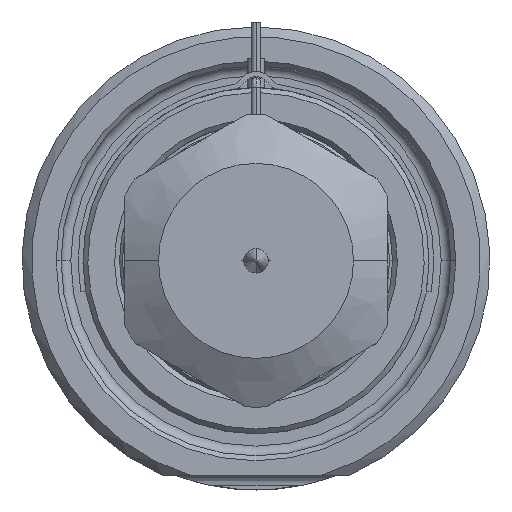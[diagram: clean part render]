
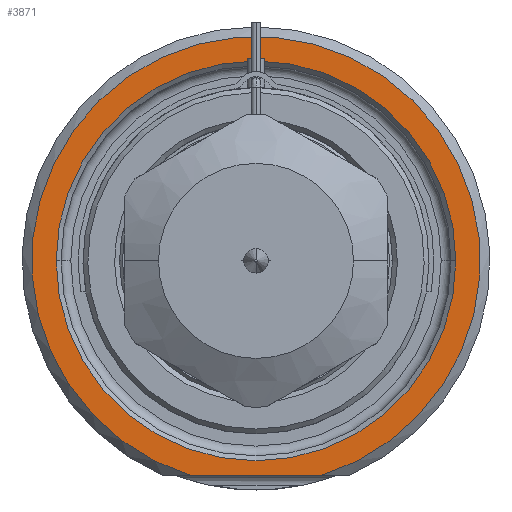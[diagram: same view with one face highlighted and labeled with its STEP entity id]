
A CAD part, front view. The second image highlights one B-rep face of the part: STEP entity #3871.
In plain terms, the highlighted planar face has unit normal (0, -1, 0).
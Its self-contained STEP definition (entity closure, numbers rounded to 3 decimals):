
#1=DIRECTION('',(1.,0.,0.));
#2=VECTOR('',#1,13.416);
#3=CARTESIAN_POINT('',(-6.708,0.,-22.));
#4=LINE('',#3,#2);
#5=CARTESIAN_POINT('',(0.,0.,0.));
#6=DIRECTION('',(0.,1.,0.));
#7=DIRECTION('',(-1.,0.,0.));
#8=AXIS2_PLACEMENT_3D('',#5,#6,#7);
#10=CARTESIAN_POINT('',(0.,0.,0.));
#11=DIRECTION('',(0.,1.,0.));
#12=DIRECTION('',(1.,0.,0.));
#13=AXIS2_PLACEMENT_3D('',#10,#11,#12);
#121=CARTESIAN_POINT('',(0.,0.,0.));
#122=DIRECTION('',(0.,-1.,0.));
#123=DIRECTION('',(0.292,0.,-0.957));
#124=AXIS2_PLACEMENT_3D('',#121,#122,#123);
#3244=CARTESIAN_POINT('',(-20.5,0.,0.));
#3245=CARTESIAN_POINT('',(20.5,0.,0.));
#3246=VERTEX_POINT('',#3244);
#3247=VERTEX_POINT('',#3245);
#3284=CARTESIAN_POINT('',(-6.708,0.,-22.));
#3285=CARTESIAN_POINT('',(6.708,0.,-22.));
#3286=VERTEX_POINT('',#3284);
#3287=VERTEX_POINT('',#3285);
#3854=CARTESIAN_POINT('',(0.,0.,0.));
#3855=DIRECTION('',(0.,-1.,0.));
#3856=DIRECTION('',(1.,0.,0.));
#3857=AXIS2_PLACEMENT_3D('',#3854,#3855,#3856);
#3858=PLANE('',#3857);
#3860=ORIENTED_EDGE('',*,*,#3859,.F.);
#3862=ORIENTED_EDGE('',*,*,#3861,.F.);
#3863=EDGE_LOOP('',(#3860,#3862));
#3864=FACE_OUTER_BOUND('',#3863,.F.);
#3866=ORIENTED_EDGE('',*,*,#3865,.F.);
#3868=ORIENTED_EDGE('',*,*,#3867,.F.);
#3869=EDGE_LOOP('',(#3866,#3868));
#3870=FACE_BOUND('',#3869,.F.);
#3871=ADVANCED_FACE('',(#3864,#3870),#3858,.T.);
#9=CIRCLE('',#8,20.5);
#14=CIRCLE('',#13,20.5);
#125=CIRCLE('',#124,23.);
#3859=EDGE_CURVE('',#3286,#3287,#4,.T.);
#3861=EDGE_CURVE('',#3287,#3286,#125,.T.);
#3865=EDGE_CURVE('',#3246,#3247,#9,.T.);
#3867=EDGE_CURVE('',#3247,#3246,#14,.T.);
